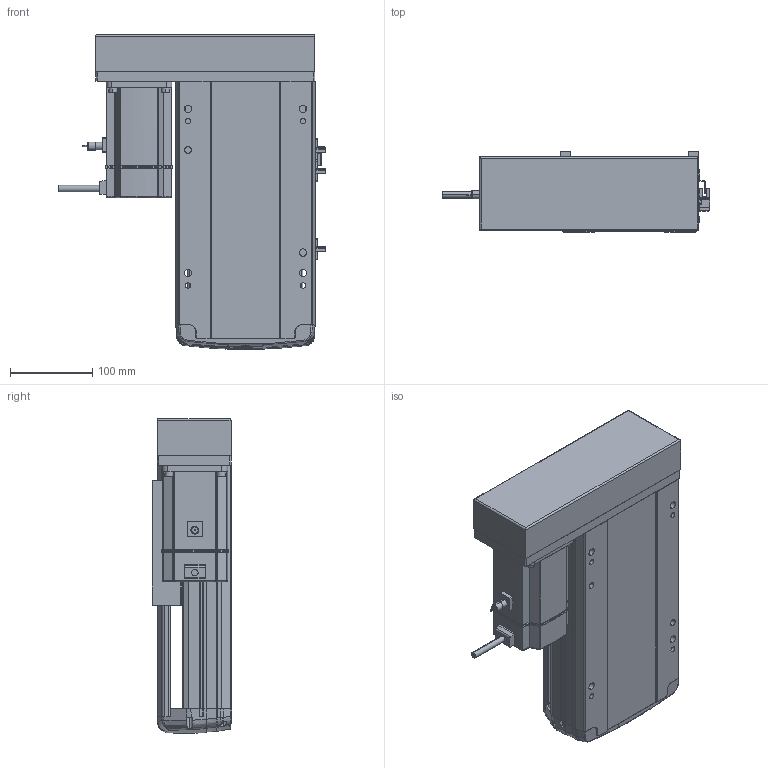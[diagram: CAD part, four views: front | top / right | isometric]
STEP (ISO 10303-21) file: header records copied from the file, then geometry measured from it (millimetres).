
FILE_DESCRIPTION (( 'STEP AP214' ), '1' );
FILE_NAME ('RTH17-XX-100-R-M75-C4.STEP', '2025-10-24T10:03:54', ( '' ), ( '' ), 'SwSTEP 2.0', 'SolidWorks 2018', '' );
FILE_SCHEMA (( 'AUTOMOTIVE_DESIGN' ));
Length unit declared in the file: millimetre
Products named in the file (10): RTH17-XX-100-R-M75-C4; N_RTH17-L-018盖子^RTH17-XX-XX-R-M75-C4（方程式）; N_RTH17-L-008-P75电机安装板左转折^RTH17-XX-XX-R-M75-C4（方程式）; N_OMRON EE-SX672 換覜ん^RTH17-XX-XX-R-M75-C4ㄗ源最宒ㄘ; N_RTH17-M-007上盖^RTH17-XX-XX-R-M75-C4（方程式）; N_RTH17-GY-001P^RTH17-XX-XX-R-M75-C4（方程式）; N_M75^RTH17-XX-XX-R-M75-C4（方程式）; N_RTH-L-012 感应片(外置)^RTH17-XX-XX-R-M75-C4（方程式）; N_RTH17-M-011底座^RTH17-XX-XX-R-M75-C4（方程式）; N_RTH17-E-004丝杆螺母连接座^RTH17-XX-XX-R-M75-C4（方程式）
Assembly tree (11 placements, depth 2):
  RTH17-XX-100-R-M75-C4
    N_RTH17-M-011底座^RTH17-XX-XX-R-M75-C4（方程式）
    N_RTH17-M-007上盖^RTH17-XX-XX-R-M75-C4（方程式）
    N_M75^RTH17-XX-XX-R-M75-C4（方程式）
    N_OMRON EE-SX672 換覜ん^RTH17-XX-XX-R-M75-C4ㄗ源最宒ㄘ  x3
    N_RTH-L-012 感应片(外置)^RTH17-XX-XX-R-M75-C4（方程式）
    N_RTH17-L-008-P75电机安装板左转折^RTH17-XX-XX-R-M75-C4（方程式）
    N_RTH17-L-018盖子^RTH17-XX-XX-R-M75-C4（方程式）
    N_RTH17-E-004丝杆螺母连接座^RTH17-XX-XX-R-M75-C4（方程式）
    N_RTH17-GY-001P^RTH17-XX-XX-R-M75-C4（方程式）
Bounding box: 326.2 x 97 x 383.07 mm (x, y, z)
Volume: 5028673 mm3; surface area: 631834.8 mm2
Topology: 13 solids, 15 shells, 1693 faces, 4619 edges, 2986 vertices
Faces by surface type: plane 825, cylinder 454, bspline 377, cone 28, torus 9
Entity records: 48373 total; most frequent: CARTESIAN_POINT 19479, ORIENTED_EDGE 6262, DIRECTION 5203, EDGE_CURVE 3135, VERTEX_POINT 2022, VECTOR 1745, LINE 1745, AXIS2_PLACEMENT_3D 1729
